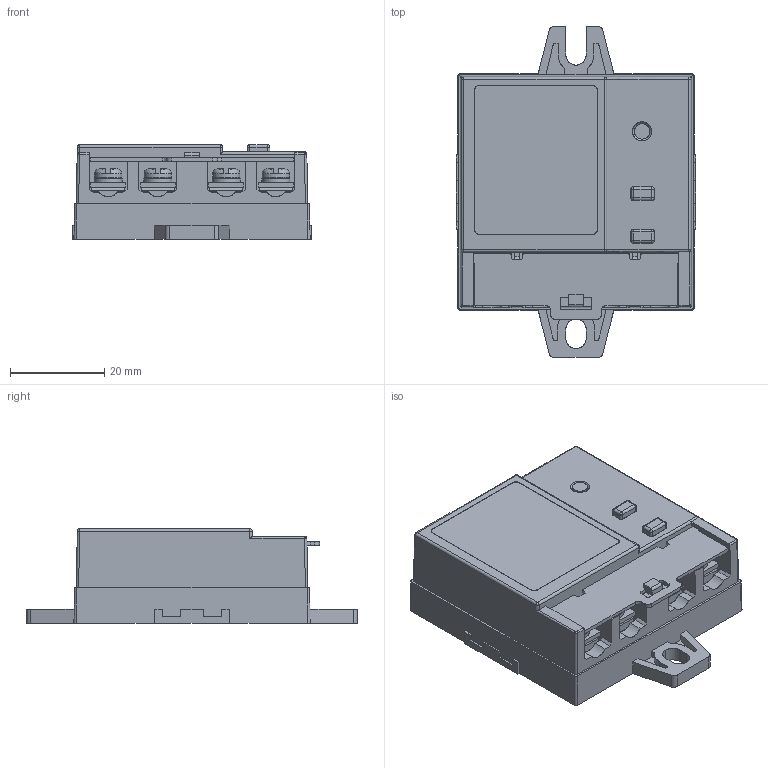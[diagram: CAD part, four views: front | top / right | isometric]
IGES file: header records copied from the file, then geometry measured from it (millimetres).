
Start section: SolidWorks IGES file using analytic representation for surfaces
Global section: file name: C:\Users\komeda\OneDrive\Desktop\リレー\RG HP\KD-L217RBV\KD-L217RGV_230629.IGS,15; native system: HSolidWorks 2022; preprocessor: SolidWorks 2022; author: komeda; date: 230629.130509; units: millimetre
Bounding box: 50.8 x 70 x 20 mm (x, y, z)
Surface area: 12231.2 mm2 (no closed solid volume)
Topology: 0 solids, 0 shells, 492 faces, 3817 edges, 3803 vertices
Faces by surface type: bspline 348, revolution 144
